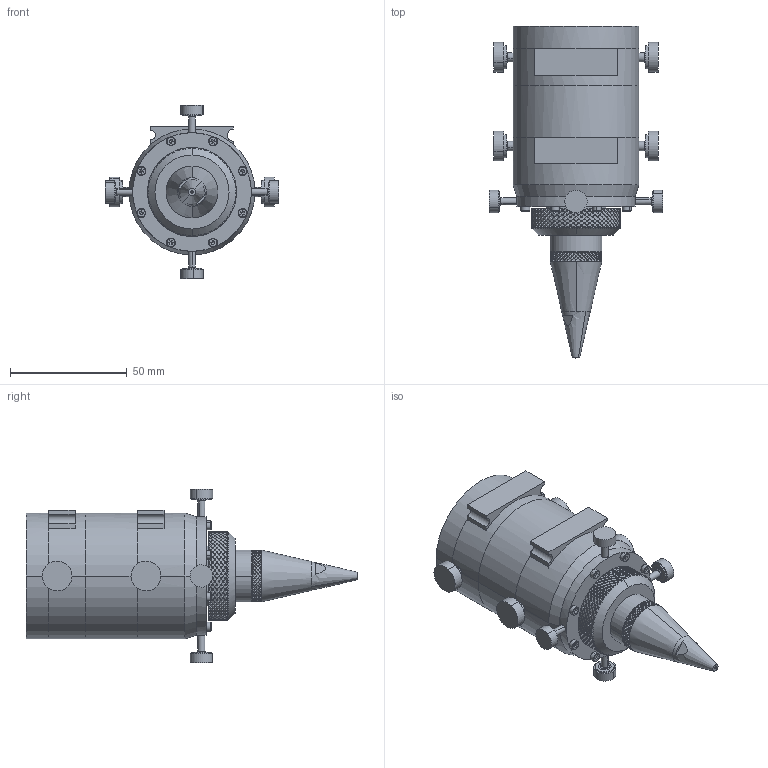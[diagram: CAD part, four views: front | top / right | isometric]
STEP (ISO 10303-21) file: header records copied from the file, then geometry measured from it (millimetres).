
FILE_DESCRIPTION (( 'STEP AP214' ), '1' );
FILE_NAME ('G1-25-25-089-127.STEP', '2016-10-28T13:39:35', ( '' ), ( '' ), 'SwSTEP 2.0', 'SolidWorks 2016', '' );
FILE_SCHEMA (( 'AUTOMOTIVE_DESIGN' ));
Length unit declared in the file: inch
Products named in the file (1): G1-25-25-089-127
Bounding box: 74.2 x 142.3 x 74.2 mm (x, y, z)
Volume: 198756.6 mm3; surface area: 37849.8 mm2
Topology: 1 solids, 1 shells, 4017 faces, 8422 edges, 4424 vertices
Faces by surface type: bspline 2800, cylinder 868, plane 277, cone 52, torus 16, sphere 4
Entity records: 121344 total; most frequent: CARTESIAN_POINT 68316, ORIENTED_EDGE 16812, EDGE_CURVE 8406, DIRECTION 4474, VERTEX_POINT 4424, EDGE_LOOP 4076, FACE_OUTER_BOUND 4017, ADVANCED_FACE 4017
